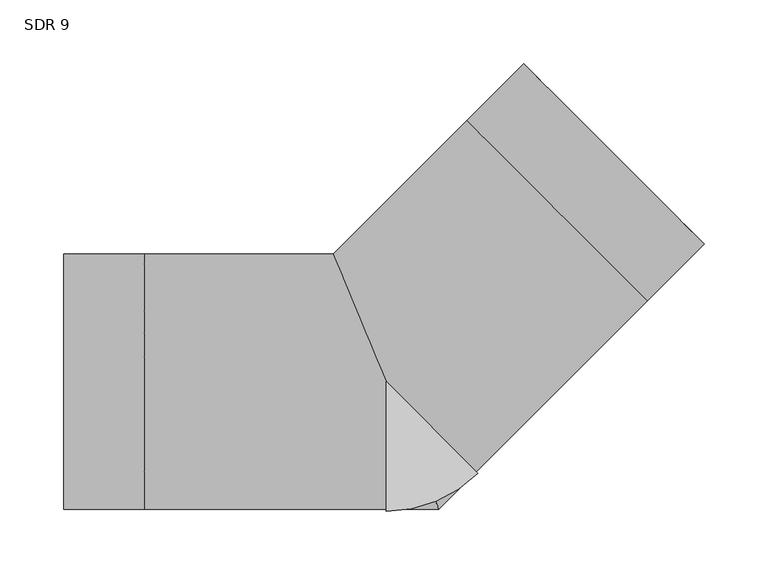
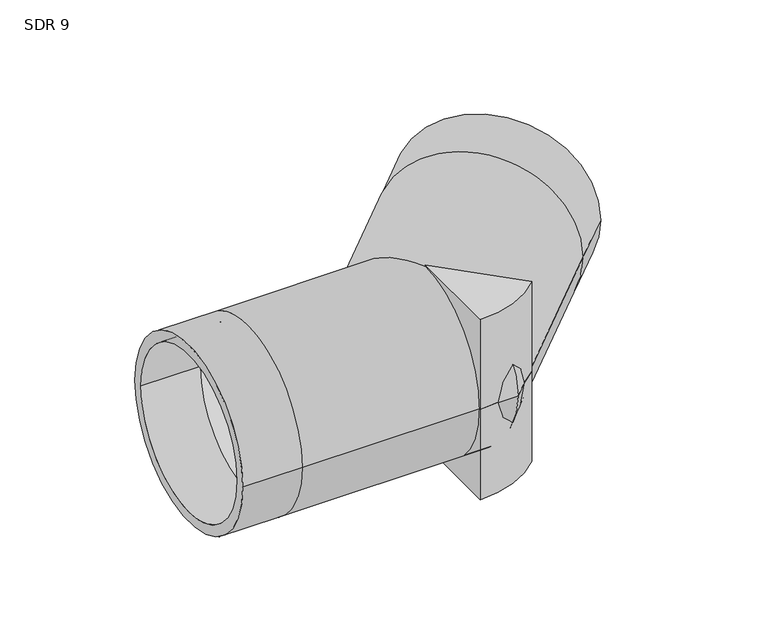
"""IFC4 building model written with IfcOpenShell, lengths in millimetres: pipe fitting geometry, Aquatherm - Elbow Blue BW Segmented : SDR 9."""

from ifc_helpers import new_model, si_unit, point, frame, origin, origin_with_axes, origin_2d, place, context, project, spatial, polyline, circle_curve, ellipse_curve, trimmed, segment, composite_curve, outline, extrude, source, transform, mapped, element, save
from ifc_brep_helpers import plane_surface, cylinder_surface, revolved_surface, advanced_brep


def sdr_9_c5ed79d0(model_context):
    return source(origin(), model_context, "Body", "SolidModel", [
        extrude(outline(composite_curve([segment(polyline([(0.0, -101.6), (0.0, 0.0), (71.842049, -71.842049)]), True, "CONTINUOUS"), segment(trimmed(circle_curve(origin_2d(), 101.6), [point((71.842049, -71.842049))], [point((0.0, -101.6))], False, "CARTESIAN"), True, "CONTINUOUS")], self_intersect=False)), frame((0.0, 0.0, -101.6), z_axis=(0.0, 0.0, 1.0), x_axis=(1.0, 0.0, 0.0)), (0.0, 0.0, 1.0), 101.6),
        extrude(outline(composite_curve([segment(trimmed(circle_curve(origin_2d(), 101.6), [point((71.842049, -71.842049))], [point((0.0, -101.6))], False, "CARTESIAN"), True, "CONTINUOUS"), segment(polyline([(0.0, -101.6), (0.0, 0.0), (71.842049, -71.842049)]), True, "CONTINUOUS")], self_intersect=False)), origin_with_axes(), (0.0, 0.0, 1.0), 101.6),
        advanced_brep(
        [(-252.476, -99.949, 0.0), (-252.476, 99.949, 0.0), (-252.476, -88.5921673, 0.0), (-252.476, 88.5921673, 0.0), (249.2021074, 107.852876, 0.0), (107.852876, 249.2021074, 0.0), (241.171614, 115.8833694, 0.0), (115.8833694, 241.171614, 0.0), (-189.357, -99.949, 0.0), (-189.357, 99.949, 0.0), (-189.357, -88.5921673, 0.0), (-189.357, 88.5921673, 0.0), (41.4002313, -99.949, 0.0), (-41.4002313, 99.949, 0.0), (36.6960772, -88.5921673, 0.0), (-36.6960772, 88.5921673, 0.0), (204.5702344, 63.2210031, 0.0), (63.2210031, 204.5702344, 0.0), (196.539741, 71.2514965, 0.0), (71.2514965, 196.539741, 0.0)],
        [
            (0, 1, circle_curve(frame((-252.476, 0.0, 0.0), z_axis=(-1.0, 0.0, 0.0), x_axis=(0.0, 1.0, 0.0)), 99.949)),
            (1, 0, circle_curve(frame((-252.476, 0.0, 0.0), z_axis=(-1.0, 0.0, 0.0), x_axis=(0.0, 1.0, 0.0)), 99.949)),
            (2, 3, circle_curve(frame((-252.476, 0.0, 0.0), z_axis=(1.0, 0.0, 0.0), x_axis=(0.0, 1.0, 0.0)), 88.5921673)),
            (3, 2, circle_curve(frame((-252.476, 0.0, 0.0), z_axis=(1.0, 0.0, 0.0), x_axis=(0.0, 1.0, 0.0)), 88.5921673)),
            (4, 5, circle_curve(frame((178.5274917, 178.5274917, 0.0), z_axis=(0.7071067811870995, 0.7071067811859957, 0.0), x_axis=(-0.7071067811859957, 0.7071067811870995, 0.0)), 99.949)),
            (5, 4, circle_curve(frame((178.5274917, 178.5274917, 0.0), z_axis=(0.7071067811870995, 0.7071067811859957, 0.0), x_axis=(-0.7071067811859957, 0.7071067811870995, 0.0)), 99.949)),
            (6, 7, circle_curve(frame((178.5274917, 178.5274917, 0.0), z_axis=(-0.7071067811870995, -0.7071067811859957, 0.0), x_axis=(-0.7071067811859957, 0.7071067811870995, 0.0)), 88.5921673)),
            (7, 6, circle_curve(frame((178.5274917, 178.5274917, 0.0), z_axis=(-0.7071067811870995, -0.7071067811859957, 0.0), x_axis=(-0.7071067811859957, 0.7071067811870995, 0.0)), 88.5921673)),
            (0, 8),
            (8, 9, circle_curve(frame((-189.357, 0.0, 0.0), z_axis=(-1.0, 0.0, 0.0), x_axis=(0.0, 1.0, 0.0)), 99.949)),
            (9, 1),
            (9, 8, circle_curve(frame((-189.357, 0.0, 0.0), z_axis=(-1.0, 0.0, 0.0), x_axis=(0.0, 1.0, 0.0)), 99.949)),
            (2, 10),
            (10, 11, circle_curve(frame((-189.357, 0.0, 0.0), z_axis=(1.0, 0.0, 0.0), x_axis=(0.0, 1.0, 0.0)), 88.5921673)),
            (11, 3),
            (11, 10, circle_curve(frame((-189.357, 0.0, 0.0), z_axis=(1.0, 0.0, 0.0), x_axis=(0.0, 1.0, 0.0)), 88.5921673)),
            (8, 12),
            (12, 13, ellipse_curve(frame((0.0, 0.0, 0.0), z_axis=(-0.9238795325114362, -0.38268343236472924, 0.0), x_axis=(-0.3826834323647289, 0.9238795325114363, 0.0)), 108.184018, 99.949)),
            (13, 9),
            (13, 12, ellipse_curve(frame((0.0, 0.0, 0.0), z_axis=(-0.9238795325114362, -0.38268343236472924, 0.0), x_axis=(-0.3826834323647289, 0.9238795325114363, 0.0)), 108.184018, 99.949)),
            (10, 14),
            (14, 15, ellipse_curve(frame((0.0, 0.0, 0.0), z_axis=(0.9238795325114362, 0.38268343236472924, 0.0), x_axis=(0.3826834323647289, -0.9238795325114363, 0.0)), 95.8914709, 88.5921673)),
            (15, 11),
            (15, 14, ellipse_curve(frame((0.0, 0.0, 0.0), z_axis=(0.9238795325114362, 0.38268343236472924, 0.0), x_axis=(0.3826834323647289, -0.9238795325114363, 0.0)), 95.8914709, 88.5921673)),
            (12, 16),
            (16, 17, circle_curve(frame((133.8956188, 133.8956188, 0.0), z_axis=(-0.7071067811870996, -0.7071067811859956, 0.0), x_axis=(-0.7071067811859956, 0.7071067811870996, 0.0)), 99.949)),
            (17, 13),
            (17, 16, circle_curve(frame((133.8956188, 133.8956188, 0.0), z_axis=(-0.7071067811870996, -0.7071067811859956, 0.0), x_axis=(-0.7071067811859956, 0.7071067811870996, 0.0)), 99.949)),
            (14, 18),
            (18, 19, circle_curve(frame((133.8956188, 133.8956188, 0.0), z_axis=(0.7071067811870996, 0.7071067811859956, 0.0), x_axis=(-0.7071067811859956, 0.7071067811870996, 0.0)), 88.5921673)),
            (19, 15),
            (19, 18, circle_curve(frame((133.8956188, 133.8956188, 0.0), z_axis=(0.7071067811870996, 0.7071067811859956, 0.0), x_axis=(-0.7071067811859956, 0.7071067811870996, 0.0)), 88.5921673)),
            (16, 4),
            (5, 17),
            (18, 6),
            (7, 19),
        ],
        [
            plane_surface(frame((-252.476, 0.0, 0.0), z_axis=(-1.0, 0.0, 0.0), x_axis=(0.0, 0.0, 1.0))),
            plane_surface(frame((178.5274917, 178.5274917, 0.0), z_axis=(0.7071067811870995, 0.7071067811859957, 0.0), x_axis=(0.0, 0.0, 1.0))),
            cylinder_surface(frame((-252.476, 0.0, 0.0), z_axis=(-1.0, 0.0, 0.0), x_axis=(0.0, 1.0, 0.0)), 99.949),
            revolved_surface(polyline([(-189.357, 88.5921673, 0.0), (-252.476, 88.5921673, 0.0)]), (-252.476, 0.0, 0.0), (1.0, 0.0, 0.0)),
            cylinder_surface(frame((-189.357, 0.0, 0.0), z_axis=(-1.0, 0.0, 0.0), x_axis=(0.0, 1.0, 0.0)), 99.949),
            revolved_surface(polyline([(36.69607721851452, 88.5921673, 0.0), (-189.357, 88.5921673, 0.0)]), (-189.357, 0.0, 0.0), (1.0, 0.0, 0.0)),
            cylinder_surface(frame((0.0, 0.0, 0.0), z_axis=(-0.7071067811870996, -0.7071067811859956, 0.0), x_axis=(-0.7071067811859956, 0.7071067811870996, 0.0)), 99.949),
            revolved_surface(polyline([(71.25149654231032, 196.5397410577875, 0.0), (-88.59216730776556, 36.696077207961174, 0.0)]), (0.0, 0.0, 0.0), (0.7071067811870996, 0.7071067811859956, 0.0)),
            cylinder_surface(frame((133.8956188, 133.8956188, 0.0), z_axis=(-0.7071067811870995, -0.7071067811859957, 0.0), x_axis=(-0.7071067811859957, 0.7071067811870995, 0.0)), 99.949),
            revolved_surface(polyline([(115.88336944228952, 241.1716139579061, 0.0), (71.25149649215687, 196.5397410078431, 0.0)]), (133.8956188, 133.8956188, 0.0), (0.7071067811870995, 0.7071067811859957, 0.0)),
        ],
        [
            (0, [[1, 2], [3, 4]]),
            (1, [[5, 6], [7, 8]]),
            (2, [[-1, 9, 10, 11]]),
            (2, [[-2, -11, 12, -9]]),
            (3, [[-3, 13, 14, 15]]),
            (3, [[-4, -15, 16, -13]]),
            (4, [[-10, 17, 18, 19]]),
            (4, [[-12, -19, 20, -17]]),
            (5, [[-14, 21, 22, 23]]),
            (5, [[-16, -23, 24, -21]]),
            (6, [[-18, 25, 26, 27]]),
            (6, [[-20, -27, 28, -25]]),
            (7, [[-22, 29, 30, 31]]),
            (7, [[-24, -31, 32, -29]]),
            (8, [[-26, 33, -6, 34]]),
            (8, [[-28, -34, -5, -33]]),
            (9, [[-30, 35, -8, 36]]),
            (9, [[-32, -36, -7, -35]]),
        ],
    ),
    ])


if __name__ == "__main__":
    model = new_model("IFC4")
    model_context = context("Model", 3, world=origin())
    ifc_project = project(units=[si_unit("LENGTHUNIT", "METRE", prefix="MILLI")], contexts=[model_context])
    site = spatial("IfcSite", under=ifc_project)
    building = spatial("IfcBuilding", under=site)
    placement = place(None, origin())
    sdr_9_shape = sdr_9_c5ed79d0(model_context)
    element("IfcPipeFitting", 1, ObjectType="Aquatherm - Elbow Blue BW Segmented : SDR 9", at=placement, inside=building, context=model_context, shape_type="MappedRepresentation", body=[
        mapped(sdr_9_shape, transform((0.0, 0.0, 0.0), x_axis=(1.0, 0.0, 0.0), y_axis=(0.0, 1.0, 0.0), z_axis=(0.0, 0.0, 1.0))),
    ])
    save(model, "model.ifc")
